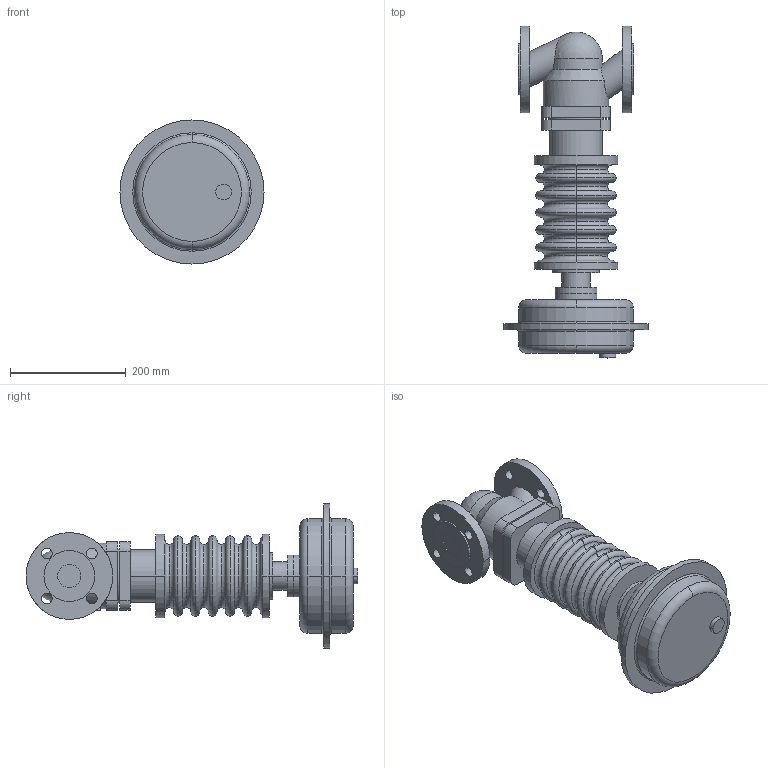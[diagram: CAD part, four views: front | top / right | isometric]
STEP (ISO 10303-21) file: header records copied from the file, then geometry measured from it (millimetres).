
FILE_DESCRIPTION( ( '' ), '1' );
FILE_NAME( 'F:/DE-SHS/TB/OR/04-Sonstiges/daten/files_3d/PREDU/PREDU-PN16-DMA250/c000005355.stp', '2014-06-03T11:12:48', ( '' ), ( '' ), ' ', ' ', ' ' );
FILE_SCHEMA( ( 'CONFIG_CONTROL_DESIGN' ) );
Length unit declared in the file: millimetre
Products named in the file (2): 1; 2
Bounding box: 249 x 574 x 249 mm (x, y, z)
Volume: 8188626.7 mm3; surface area: 503013.1 mm2
Topology: 2 solids, 2 shells, 179 faces, 430 edges, 276 vertices
Faces by surface type: cylinder 72, torus 54, plane 50, cone 2, sphere 1
Entity records: 5879 total; most frequent: CARTESIAN_POINT 1360, DIRECTION 1052, ORIENTED_EDGE 856, AXIS2_PLACEMENT_3D 459, EDGE_CURVE 428, VERTEX_POINT 276, CIRCLE 272, EDGE_LOOP 218
